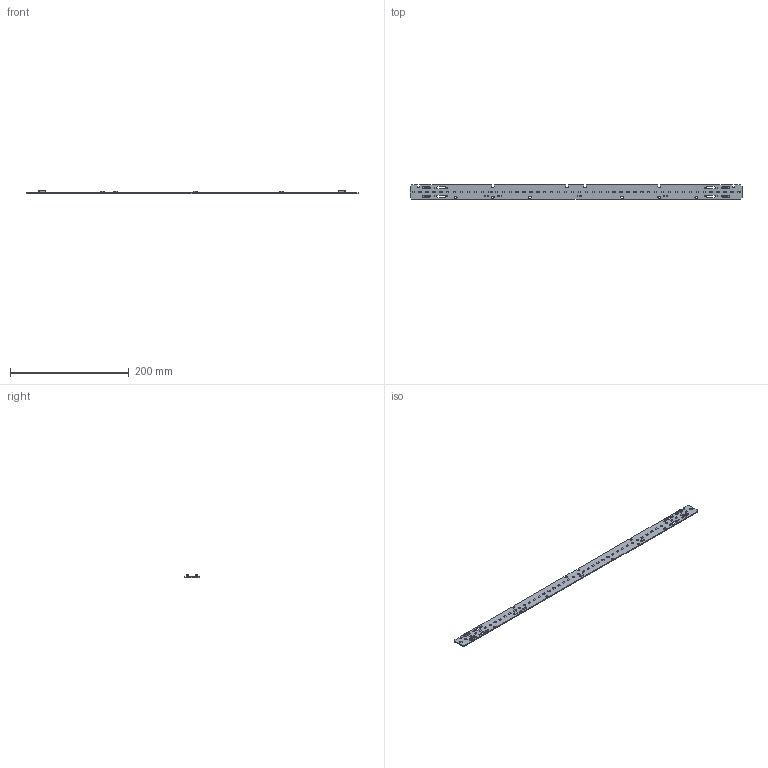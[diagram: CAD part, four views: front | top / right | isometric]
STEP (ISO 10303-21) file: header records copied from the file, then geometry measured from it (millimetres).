
FILE_DESCRIPTION((''),'2;1');
FILE_NAME('16212221_LLE-G6-24X560-2400-LV','2023-01-30T14:46:27',('Bernhard.Fink'),(''),'CREO PARAMETRIC BY PTC INC, 2021184','CREO PARAMETRIC BY PTC INC, 2021184','');
FILE_SCHEMA(('CONFIG_CONTROL_DESIGN'));
Products named in the file (1): 16212221_LLE-G6-24X560-2400-LV
Bounding box: 559 x 23.6 x 5.1 mm (x, y, z)
Volume: 21464.5 mm3; surface area: 29244.3 mm2
Topology: 1 solids, 25 shells, 3371 faces, 9550 edges, 6272 vertices
Faces by surface type: plane 2255, cylinder 772, bspline 208, cone 64, sphere 40, torus 32
Entity records: 165246 total; most frequent: CARTESIAN_POINT 81473, ORIENTED_EDGE 18736, DIRECTION 15022, EDGE_CURVE 9534, VECTOR 7030, LINE 7030, VERTEX_POINT 6264, AXIS2_PLACEMENT_3D 3996
